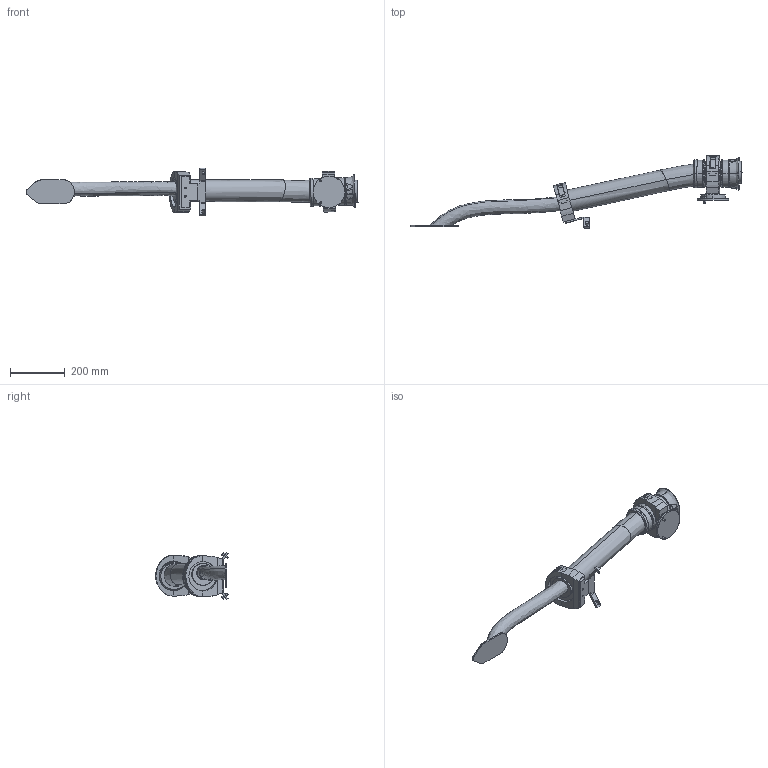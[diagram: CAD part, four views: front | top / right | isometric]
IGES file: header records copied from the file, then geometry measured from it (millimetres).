
Start section: SolidWorks IGES file using analytic representation for surfaces
Global section: file name: C:\DATA\SAP_DOC\LW\IRB 6720\IRB6720-LID-SW_150kg-310_OC_01_SW_J\export\IRB6720-LID-SW_150kg-310_OC_01_IGES_J\IRB6720-LID_150kg-310_OC_00_LINK04_CABLE.igs; native system: SolidWorks 2024; preprocessor: SolidWorks 2024; author: SEJOVAS3; date: 260526.095550; units: millimetre
Bounding box: 1212.1 x 265.02 x 174.65 mm (x, y, z)
Surface area: 451002.8 mm2 (no closed solid volume)
Topology: 0 solids, 0 shells, 428 faces, 8049 edges, 8049 vertices
Faces by surface type: bspline 266, revolution 162
